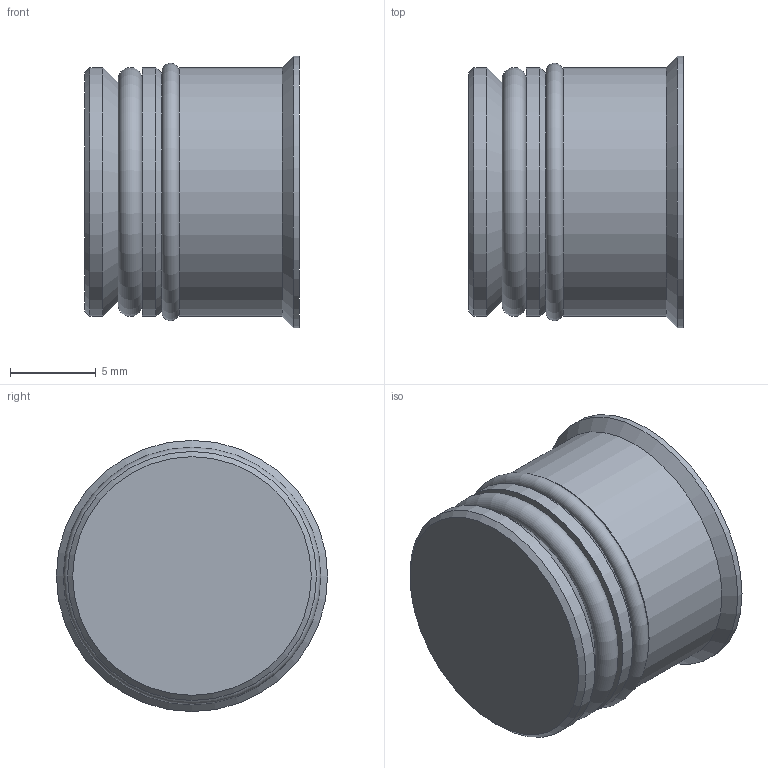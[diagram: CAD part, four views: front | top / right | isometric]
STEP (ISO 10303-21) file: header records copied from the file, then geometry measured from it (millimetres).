
FILE_DESCRIPTION( ( 'STEP AP214' ), '1' );
FILE_NAME( 'p:/temp/worker_101/temp/exporttempdir_540_691_iD0dE/format_0/TR-14.stp', '2021-02-08T19:21:40', ( 'License CC BY-ND 4.0' ), ( 'CADENAS' ), ' ', 'PARTsolutions', ' ' );
FILE_SCHEMA( ( 'AUTOMOTIVE_DESIGN { 1 0 10303 214 1 1 1 1 }' ) );
Length unit declared in the file: millimetre
Products named in the file (1): _TR-14
Bounding box: 12.5 x 15.8 x 15.8 mm (x, y, z)
Volume: 1954.3 mm3; surface area: 1234.2 mm2
Topology: 1 solids, 1 shells, 31 faces, 66 edges, 42 vertices
Faces by surface type: plane 19, cone 5, cylinder 5, torus 2
Full cylindrical faces by diameter (mm): 6 x1, 14.5 x3, 15.8 x1
Entity records: 1022 total; most frequent: DIRECTION 132, CARTESIAN_POINT 126, ORIENTED_EDGE 104, EDGE_CURVE 52, AXIS2_PLACEMENT_3D 48, EDGE_LOOP 48, VERTEX_POINT 42, FACE_OUTER_BOUND 38
